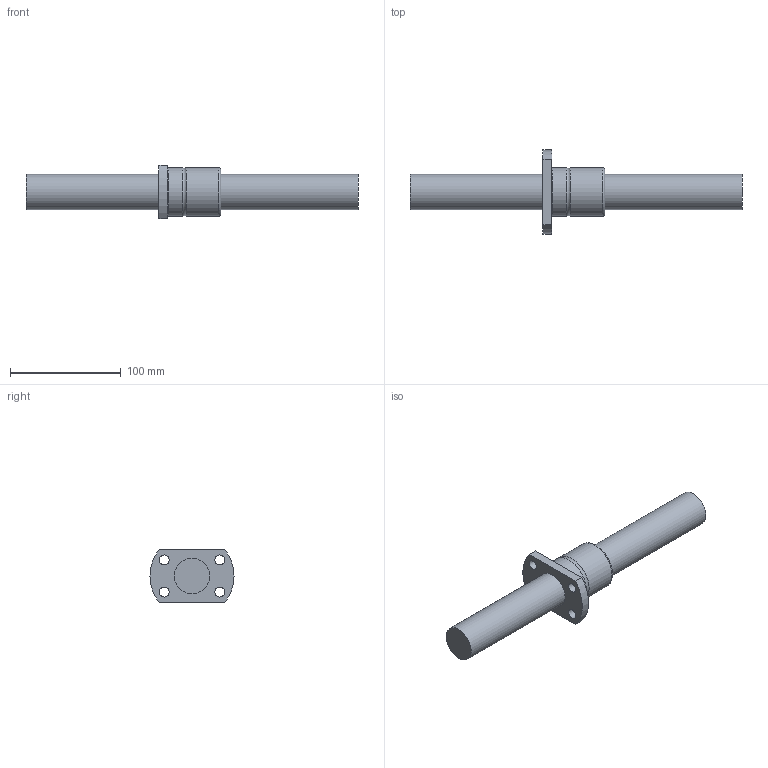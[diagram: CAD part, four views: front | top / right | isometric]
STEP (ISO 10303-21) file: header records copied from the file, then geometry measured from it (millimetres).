
FILE_DESCRIPTION((''),'2;1');
FILE_NAME('D:\製品 (図面)\カタログ用3D\ネジ関連\STEP形式\TMK-OH\TMK32-OH.stp','2010-06-02T15:29:37',('Tsuchiya'),(''),'Autodesk Inventor 10','Autodesk Inventor 10','');
FILE_SCHEMA(('AUTOMOTIVE_DESIGN { 1 0 10303 214 1 1 1 1 }'));
Length unit declared in the file: millimetre
Products named in the file (3): TMK32-OH; TMK32-OH1; TMK32-OH2
Assembly tree (2 placements, depth 2):
  TMK32-OH
    TMK32-OH1
    TMK32-OH2
Bounding box: 300 x 76 x 48 mm (x, y, z)
Volume: 293928.9 mm3; surface area: 51292.6 mm2
Topology: 2 solids, 2 shells, 21 faces, 49 edges, 33 vertices
Faces by surface type: cylinder 7, plane 7, bspline 6, torus 1
Full cylindrical faces by diameter (mm): 2.5 x1, 32 x2, 44 x2
Entity records: 872 total; most frequent: CARTESIAN_POINT 378, DIRECTION 92, ORIENTED_EDGE 64, EDGE_LOOP 46, AXIS2_PLACEMENT_3D 42, EDGE_CURVE 32, VERTEX_POINT 28, FACE_BOUND 25
